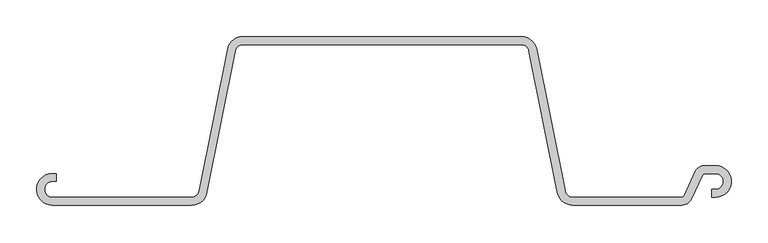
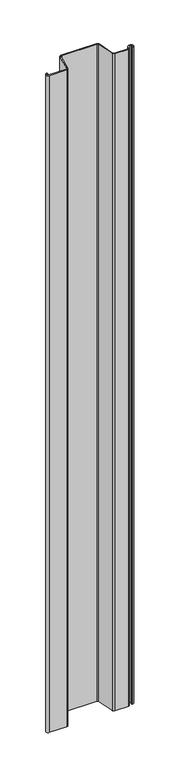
"""IFC4 building model written with IfcOpenShell, lengths in millimetres: proxy geometry, 鋼矢板10H型 : 鋼矢板10H型."""

from ifc_helpers import new_model, si_unit, point, frame, frame_2d, origin, place, context, project, spatial, polyline, circle_curve, trimmed, segment, composite_curve, outline, extrude, source, transform, mapped, element, save


def generic_models_fa2cd2e8(model_context):
    return source(origin(), model_context, "Body", "SweptSolid", [
        extrude(outline(composite_curve([segment(trimmed(circle_curve(frame_2d((409.1972607, -101.1142857)), 13.8857143), [point((421.7819917, -106.9826421))], [point((409.1972607, -115.0))], False, "CARTESIAN"), True, "CONTINUOUS"), segment(polyline([(409.1972607, -115.0), (260.2008232, -115.0)]), True, "CONTINUOUS"), segment(trimmed(circle_curve(frame_2d((260.2008232, -93.4)), 21.6), [point((260.2008232, -115.0))], [point((239.0202806, -97.6361085))], False, "CARTESIAN"), True, "CONTINUOUS"), segment(polyline([(239.0202806, -97.6361085), (200.3894481, 95.5180543)]), True, "CONTINUOUS"), segment(trimmed(circle_curve(frame_2d((189.7991768, 93.4)), 10.8), [point((200.3894481, 95.5180543))], [point((189.7991768, 104.2))], True, "CARTESIAN"), True, "CONTINUOUS"), segment(polyline([(189.7991768, 104.2), (-189.7991768, 104.2)]), True, "CONTINUOUS"), segment(trimmed(circle_curve(frame_2d((-189.7991768, 93.4)), 10.8), [point((-189.7991768, 104.2))], [point((-200.3894481, 95.5180543))], True, "CARTESIAN"), True, "CONTINUOUS"), segment(polyline([(-200.3894481, 95.5180543), (-239.0202806, -97.6361085)]), True, "CONTINUOUS"), segment(trimmed(circle_curve(frame_2d((-260.2008232, -93.4)), 21.6), [point((-239.0202806, -97.6361085))], [point((-260.2008232, -115.0))], False, "CARTESIAN"), True, "CONTINUOUS"), segment(polyline([(-260.2008232, -115.0), (-450.0, -115.0)]), True, "CONTINUOUS"), segment(trimmed(circle_curve(frame_2d((-450.0, -93.4)), 21.6), [point((-450.0, -115.0))], [point((-450.0, -71.8))], False, "CARTESIAN"), True, "CONTINUOUS"), segment(polyline([(-450.0, -71.8), (-445.0, -71.8), (-445.0, -82.6), (-450.0, -82.6)]), True, "CONTINUOUS"), segment(trimmed(circle_curve(frame_2d((-450.0, -93.4)), 10.8), [point((-450.0, -82.6))], [point((-450.0, -104.2))], True, "CARTESIAN"), True, "CONTINUOUS"), segment(polyline([(-450.0, -104.2), (-260.2008232, -104.2)]), True, "CONTINUOUS"), segment(trimmed(circle_curve(frame_2d((-260.2008232, -93.4)), 10.8), [point((-260.2008232, -104.2))], [point((-249.6105519, -95.5180543))], True, "CARTESIAN"), True, "CONTINUOUS"), segment(polyline([(-249.6105519, -95.5180543), (-210.9797194, 97.6361085)]), True, "CONTINUOUS"), segment(trimmed(circle_curve(frame_2d((-189.7991768, 93.4)), 21.6), [point((-210.9797194, 97.6361085))], [point((-189.7991768, 115.0))], False, "CARTESIAN"), True, "CONTINUOUS"), segment(polyline([(-189.7991768, 115.0), (189.7991768, 115.0)]), True, "CONTINUOUS"), segment(trimmed(circle_curve(frame_2d((189.7991768, 93.4)), 21.6), [point((189.7991768, 115.0))], [point((210.9797194, 97.6361085))], False, "CARTESIAN"), True, "CONTINUOUS"), segment(polyline([(210.9797194, 97.6361085), (249.6105519, -95.5180543)]), True, "CONTINUOUS"), segment(trimmed(circle_curve(frame_2d((260.2008232, -93.4)), 10.8), [point((249.6105519, -95.5180543))], [point((260.2008232, -104.2))], True, "CARTESIAN"), True, "CONTINUOUS"), segment(polyline([(260.2008232, -104.2), (409.1972607, -104.2)]), True, "CONTINUOUS"), segment(trimmed(circle_curve(frame_2d((409.1972607, -101.1142857)), 3.0857143), [point((409.1972607, -104.2))], [point((411.9938676, -102.4183649))], True, "CARTESIAN"), True, "CONTINUOUS"), segment(polyline([(411.9938676, -102.4183649), (427.569013, -69.0173579)]), True, "CONTINUOUS"), segment(trimmed(circle_curve(frame_2d((440.153744, -74.8857143)), 13.8857143), [point((427.569013, -69.0173579))], [point((440.153744, -61.0))], False, "CARTESIAN"), True, "CONTINUOUS"), segment(polyline([(440.153744, -61.0), (455.0, -61.0)]), True, "CONTINUOUS"), segment(trimmed(circle_curve(frame_2d((455.0, -82.6)), 21.6), [point((455.0, -61.0))], [point((455.0, -104.2))], False, "CARTESIAN"), True, "CONTINUOUS"), segment(polyline([(455.0, -104.2), (450.0, -104.2), (450.0, -93.4), (455.0, -93.4)]), True, "CONTINUOUS"), segment(trimmed(circle_curve(frame_2d((455.0, -82.6)), 10.8), [point((455.0, -93.4))], [point((455.0, -71.8))], True, "CARTESIAN"), True, "CONTINUOUS"), segment(polyline([(455.0, -71.8), (440.153744, -71.8)]), True, "CONTINUOUS"), segment(trimmed(circle_curve(frame_2d((440.153744, -74.8857143)), 3.0857143), [point((440.153744, -71.8))], [point((437.3571371, -73.5816351))], True, "CARTESIAN"), True, "CONTINUOUS"), segment(polyline([(437.3571371, -73.5816351), (421.7819917, -106.9826421)]), True, "CONTINUOUS")], self_intersect=False)), frame((0.0, 0.0, -7500.0), z_axis=(0.0, 0.0, 1.0), x_axis=(1.0, 0.0, 0.0)), (0.0, 0.0, 1.0), 7500.0),
    ])


if __name__ == "__main__":
    model = new_model("IFC4")
    model_context = context("Model", 3, world=origin())
    ifc_project = project(units=[si_unit("LENGTHUNIT", "METRE", prefix="MILLI")], contexts=[model_context])
    site = spatial("IfcSite", under=ifc_project)
    building = spatial("IfcBuilding", under=site)
    placement = place(None, origin())
    generic_models_shape = generic_models_fa2cd2e8(model_context)
    element("IfcBuildingElementProxy", 1, Name="鋼矢板10H型 : 鋼矢板10H型", ObjectType="鋼矢板10H型 : 鋼矢板10H型", at=placement, inside=building, context=model_context, shape_type="MappedRepresentation", body=[
        mapped(generic_models_shape, transform((0.0, 0.0, 0.0), x_axis=(1.0, 0.0, 0.0), y_axis=(0.0, 1.0, 0.0), z_axis=(0.0, 0.0, 1.0))),
    ])
    save(model, "model.ifc")
